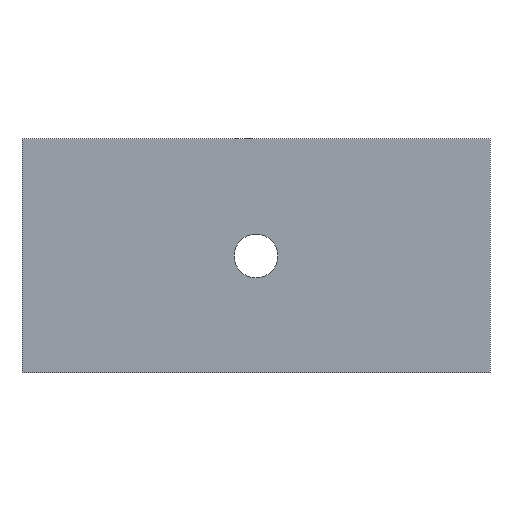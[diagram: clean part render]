
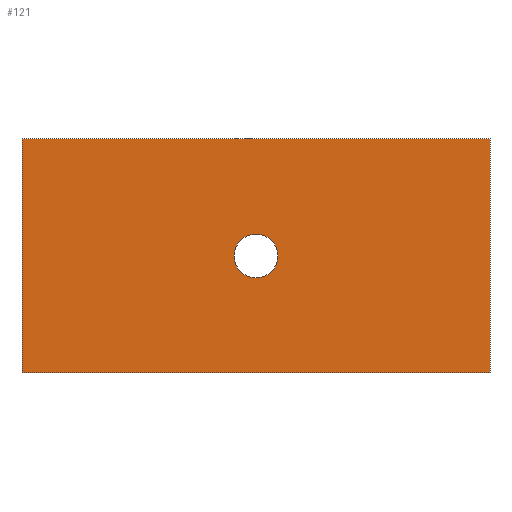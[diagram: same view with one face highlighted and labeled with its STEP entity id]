
A CAD part, front view. The second image highlights one B-rep face of the part: STEP entity #121.
In plain terms, the highlighted planar face has unit normal (0, -1, 0).
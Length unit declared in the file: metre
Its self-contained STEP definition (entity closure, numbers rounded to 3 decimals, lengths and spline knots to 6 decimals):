
#13=CIRCLE('',#142,0.05715);
#31=ORIENTED_EDGE('',*,*,#55,.F.);
#32=ORIENTED_EDGE('',*,*,#45,.F.);
#33=ORIENTED_EDGE('',*,*,#49,.T.);
#34=ORIENTED_EDGE('',*,*,#52,.T.);
#35=ORIENTED_EDGE('',*,*,#54,.F.);
#45=EDGE_CURVE('',#59,#60,#69,.T.);
#49=EDGE_CURVE('',#59,#62,#73,.T.);
#52=EDGE_CURVE('',#62,#64,#76,.T.);
#54=EDGE_CURVE('',#60,#64,#78,.T.);
#55=EDGE_CURVE('',#65,#65,#13,.T.);
#59=VERTEX_POINT('',#184);
#60=VERTEX_POINT('',#186);
#62=VERTEX_POINT('',#192);
#64=VERTEX_POINT('',#198);
#65=VERTEX_POINT('',#205);
#69=LINE('',#185,#81);
#73=LINE('',#193,#85);
#76=LINE('',#199,#88);
#78=LINE('',#202,#90);
#81=VECTOR('',#152,1.);
#85=VECTOR('',#158,1.);
#88=VECTOR('',#163,1.);
#90=VECTOR('',#167,1.);
#95=EDGE_LOOP('',(#31));
#96=EDGE_LOOP('',(#32,#33,#34,#35));
#105=FACE_BOUND('',#95,.T.);
#106=FACE_BOUND('',#96,.T.);
#115=PLANE('',#141);
#121=ADVANCED_FACE('',(#105,#106),#115,.T.);
#141=AXIS2_PLACEMENT_3D('',#203,#168,#169);
#142=AXIS2_PLACEMENT_3D('',#204,#170,#171);
#152=DIRECTION('',(0.,0.,1.));
#158=DIRECTION('',(1.,0.,0.));
#163=DIRECTION('',(0.,0.,1.));
#167=DIRECTION('',(1.,0.,0.));
#168=DIRECTION('',(0.,-1.,0.));
#169=DIRECTION('',(1.,0.,0.));
#170=DIRECTION('',(0.,-1.,0.));
#171=DIRECTION('',(-1.,0.,0.));
#184=CARTESIAN_POINT('',(-0.6096,-0.0431,-0.3048));
#185=CARTESIAN_POINT('',(-0.6096,-0.0431,0.));
#186=CARTESIAN_POINT('',(-0.6096,-0.0431,0.3048));
#192=CARTESIAN_POINT('',(0.6096,-0.0431,-0.3048));
#193=CARTESIAN_POINT('',(0.,-0.0431,-0.3048));
#198=CARTESIAN_POINT('',(0.6096,-0.0431,0.3048));
#199=CARTESIAN_POINT('',(0.6096,-0.0431,0.));
#202=CARTESIAN_POINT('',(0.,-0.0431,0.3048));
#203=CARTESIAN_POINT('',(0.,-0.0431,0.));
#204=CARTESIAN_POINT('',(0.,-0.0431,0.));
#205=CARTESIAN_POINT('',(-0.05715,-0.0431,0.));
